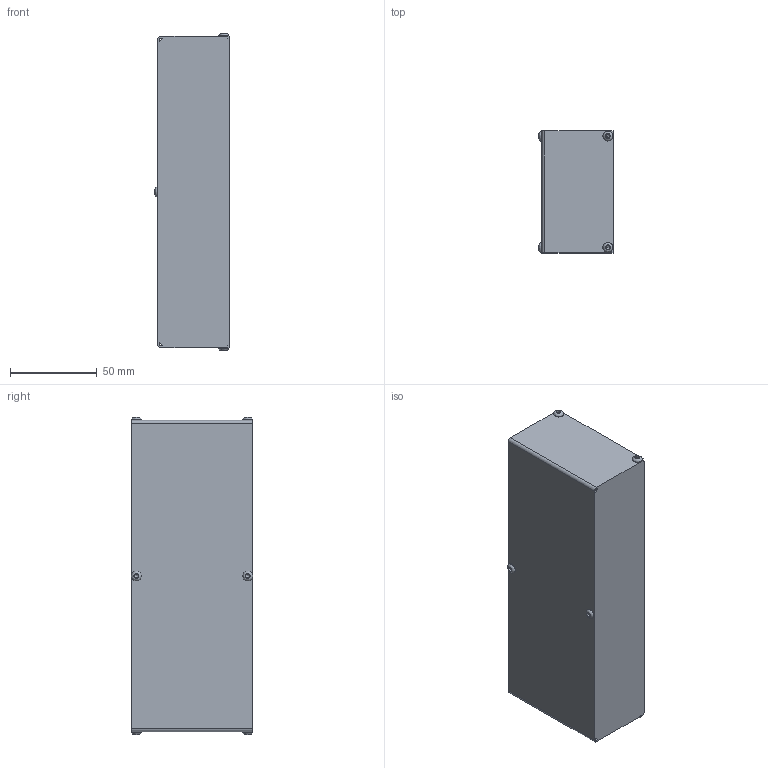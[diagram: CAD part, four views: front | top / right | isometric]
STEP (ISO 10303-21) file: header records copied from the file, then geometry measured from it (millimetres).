
FILE_DESCRIPTION(/* description */ (''),/* implementation_level */ '2;1');
FILE_NAME(/* name */ 'X:\VIRI ZA WEB\CAD DATOTEKE\LINEARNE ENOTE UNIMOTION\DODATNA OPREMA ZA LINEARNE ENOTE\STRANSKI POGONI\CTV-MTV\CTV 110-MTV 65\MSD CTV 110 T1 1 72 X 72\izvoz\CAD_71379.stp',/* time_stamp */ '2016-06-06T09:36:28+02:00',/* author */ ('Hypex'),/* organization */ ('Hypex'),/* preprocessor_version */ 'ST-DEVELOPER v16.1',/* originating_system */ 'Autodesk Inventor 2016',/* authorisation */ '');
FILE_SCHEMA (('AUTOMOTIVE_DESIGN { 1 0 10303 214 3 1 1 }'));
Length unit declared in the file: millimetre
Products named in the file (1): CAD_71379
Bounding box: 42.65 x 70 x 182.3 mm (x, y, z)
Volume: 495222.7 mm3; surface area: 49509.3 mm2
Topology: 1 solids, 13 shells, 196 faces, 482 edges, 319 vertices
Faces by surface type: plane 111, cylinder 53, cone 20, bspline 6, torus 6
Full cylindrical faces by diameter (mm): 2.459 x6, 3 x6, 4 x6, 5.7 x6, 6.2 x8, 25 x1
Entity records: 5467 total; most frequent: CARTESIAN_POINT 1097, DIRECTION 864, ORIENTED_EDGE 764, EDGE_CURVE 382, AXIS2_PLACEMENT_3D 333, EDGE_LOOP 278, VERTEX_POINT 278, LINE 198
